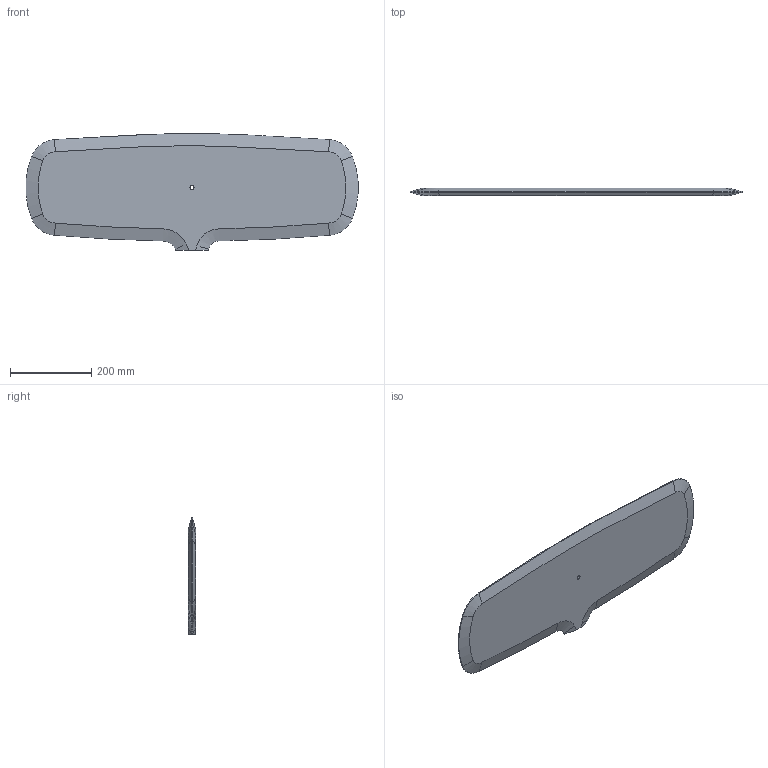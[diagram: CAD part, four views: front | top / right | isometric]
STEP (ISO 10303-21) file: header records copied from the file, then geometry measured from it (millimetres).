
FILE_DESCRIPTION (( 'STEP AP203' ), '1' );
FILE_NAME ('BALDA_S_FIX_CENTRAL.STEP', '2017-05-05T10:51:12', ( 'Usuario' ), ( '' ), 'SwSTEP 2.0', 'SolidWorks 2016', '' );
FILE_SCHEMA (( 'CONFIG_CONTROL_DESIGN' ));
Length unit declared in the file: millimetre
Products named in the file (1): BALDA_S_FIX_CENTRAL
Bounding box: 818.83 x 18 x 287.48 mm (x, y, z)
Volume: 3181508 mm3; surface area: 412463.4 mm2
Topology: 1 solids, 1 shells, 44 faces, 102 edges, 60 vertices
Faces by surface type: cone 16, cylinder 10, plane 9, bspline 9
Entity records: 2352 total; most frequent: CARTESIAN_POINT 1323, ORIENTED_EDGE 204, DIRECTION 186, EDGE_CURVE 102, AXIS2_PLACEMENT_3D 72, VERTEX_POINT 60, EDGE_LOOP 46, ADVANCED_FACE 44
